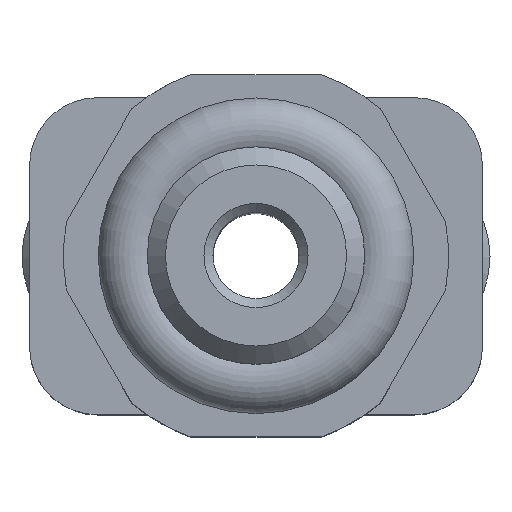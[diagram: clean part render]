
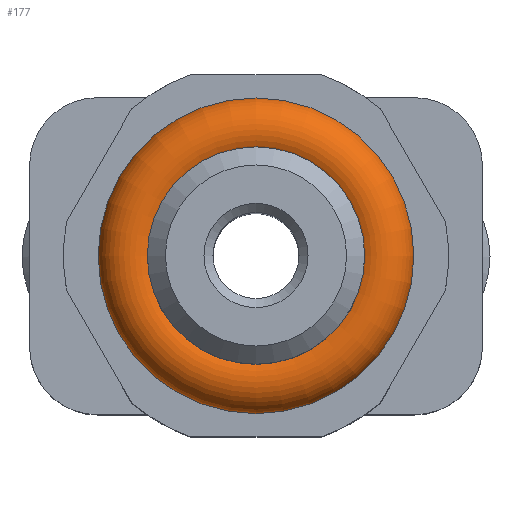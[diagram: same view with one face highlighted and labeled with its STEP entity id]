
A CAD part, top view. The second image highlights one B-rep face of the part: STEP entity #177.
In plain terms, the highlighted toroidal (fillet/blend) face has major radius 2.75 mm and minor radius 0.75 mm.
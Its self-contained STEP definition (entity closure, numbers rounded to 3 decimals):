
#177 = ADVANCED_FACE( '', ( #367, #368 ), #369, .T. );
#367 = FACE_OUTER_BOUND( '', #564, .T. );
#368 = FACE_OUTER_BOUND( '', #565, .T. );
#369 = TOROIDAL_SURFACE( '', #566, 2.75, 0.75 );
#564 = EDGE_LOOP( '', ( #1013 ) );
#565 = EDGE_LOOP( '', ( #1014 ) );
#566 = AXIS2_PLACEMENT_3D( '', #1015, #1016, #1017 );
#1013 = ORIENTED_EDGE( '', *, *, #1277, .F. );
#1014 = ORIENTED_EDGE( '', *, *, #1259, .T. );
#1015 = CARTESIAN_POINT( '', ( 0., 0., 2.85 ) );
#1016 = DIRECTION( '', ( 0., 0., 1. ) );
#1017 = DIRECTION( '', ( 0., -1., 0. ) );
#1259 = EDGE_CURVE( '', #1530, #1530, #1531, .T. );
#1277 = EDGE_CURVE( '', #1551, #1551, #1552, .T. );
#1530 = VERTEX_POINT( '', #1928 );
#1531 = CIRCLE( '', #1929, 3.485 );
#1551 = VERTEX_POINT( '', #1953 );
#1552 = CIRCLE( '', #1954, 2.015 );
#1928 = CARTESIAN_POINT( '', ( 0., -3.485, 3. ) );
#1929 = AXIS2_PLACEMENT_3D( '', #2191, #2192, #2193 );
#1953 = CARTESIAN_POINT( '', ( 0., -2.015, 3. ) );
#1954 = AXIS2_PLACEMENT_3D( '', #2210, #2211, #2212 );
#2191 = CARTESIAN_POINT( '', ( 0., 0., 3. ) );
#2192 = DIRECTION( '', ( 0., 0., 1. ) );
#2193 = DIRECTION( '', ( 0., -1., 0. ) );
#2210 = CARTESIAN_POINT( '', ( 0., 0., 3. ) );
#2211 = DIRECTION( '', ( 0., 0., 1. ) );
#2212 = DIRECTION( '', ( 0., -1., 0. ) );
